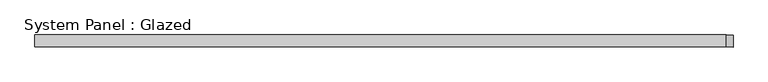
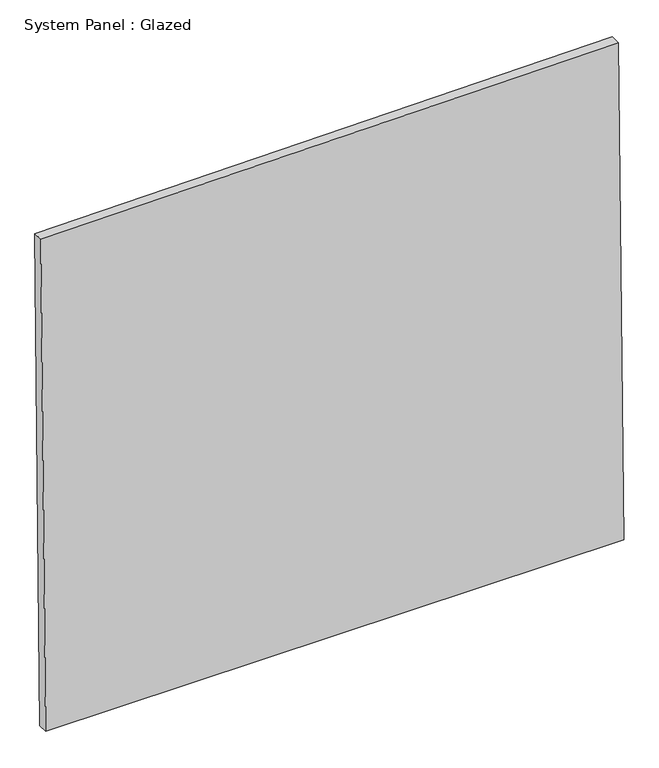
"""IFC4 building model written with IfcOpenShell, lengths in millimetres: plate geometry, System Panel : Glazed."""

from ifc_helpers import new_model, si_unit, frame, origin, place, context, project, spatial, polyline, outline, extrude, source, transform, mapped, element, save


def system_panel_glazed_b829cb4e(model_context):
    return source(origin(), model_context, "Body", "SweptSolid", [
        extrude(outline(polyline([(0.0, -714.8224936), (0.0, 726.7903024), (1314.7280607, 712.9026113), (1300.4945953, -726.7903024), (0.0, -714.8224936)])), frame((0.0, -49.5, 0.0), z_axis=(0.0, 1.0, 0.0), x_axis=(0.0, 0.0, 1.0)), (0.0, 0.0, 1.0), 25.0),
    ])


if __name__ == "__main__":
    model = new_model("IFC4")
    model_context = context("Model", 3, world=origin())
    ifc_project = project(units=[si_unit("LENGTHUNIT", "METRE", prefix="MILLI")], contexts=[model_context])
    site = spatial("IfcSite", under=ifc_project)
    building = spatial("IfcBuilding", under=site)
    placement = place(None, origin())
    system_panel_glazed_shape = system_panel_glazed_b829cb4e(model_context)
    element("IfcPlate", 1, ObjectType="System Panel : Glazed", at=placement, inside=building, context=model_context, shape_type="MappedRepresentation", body=[
        mapped(system_panel_glazed_shape, transform((0.0, 0.0, 0.0), x_axis=(1.0, 0.0, 0.0), y_axis=(0.0, 1.0, 0.0), z_axis=(0.0, 0.0, 1.0))),
    ])
    save(model, "model.ifc")
